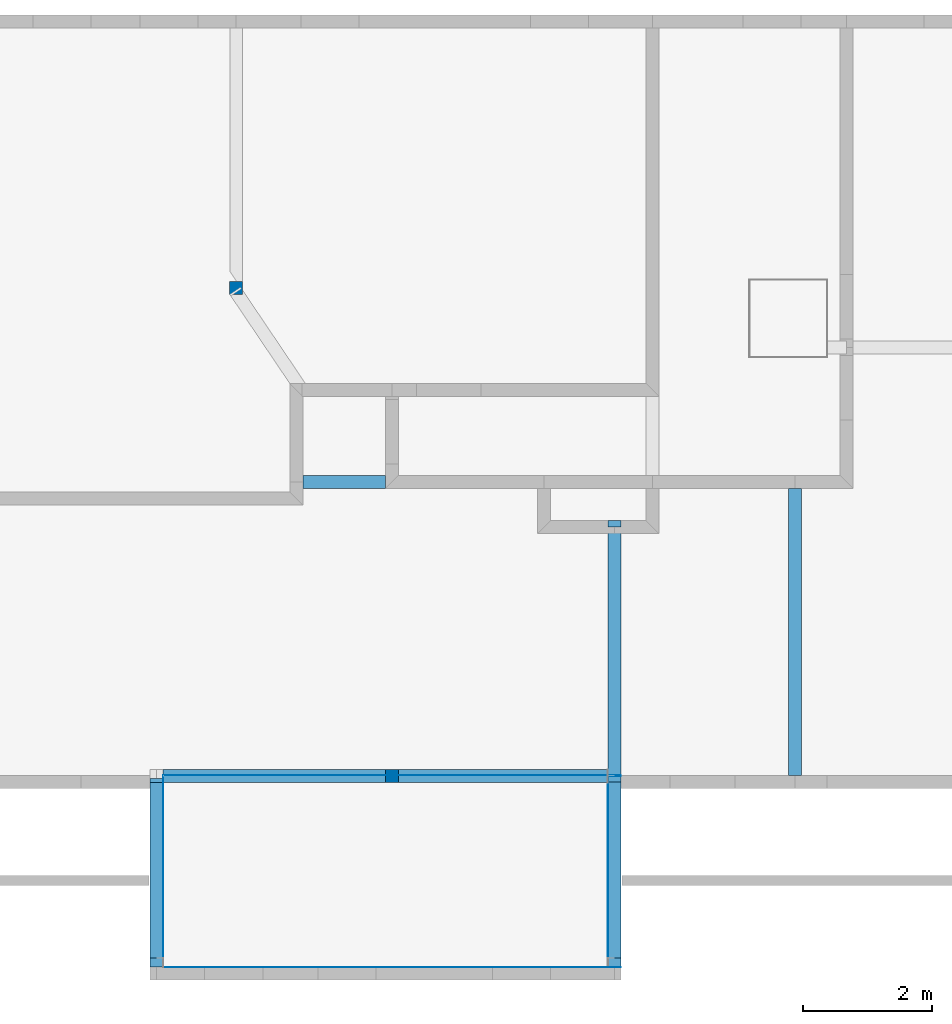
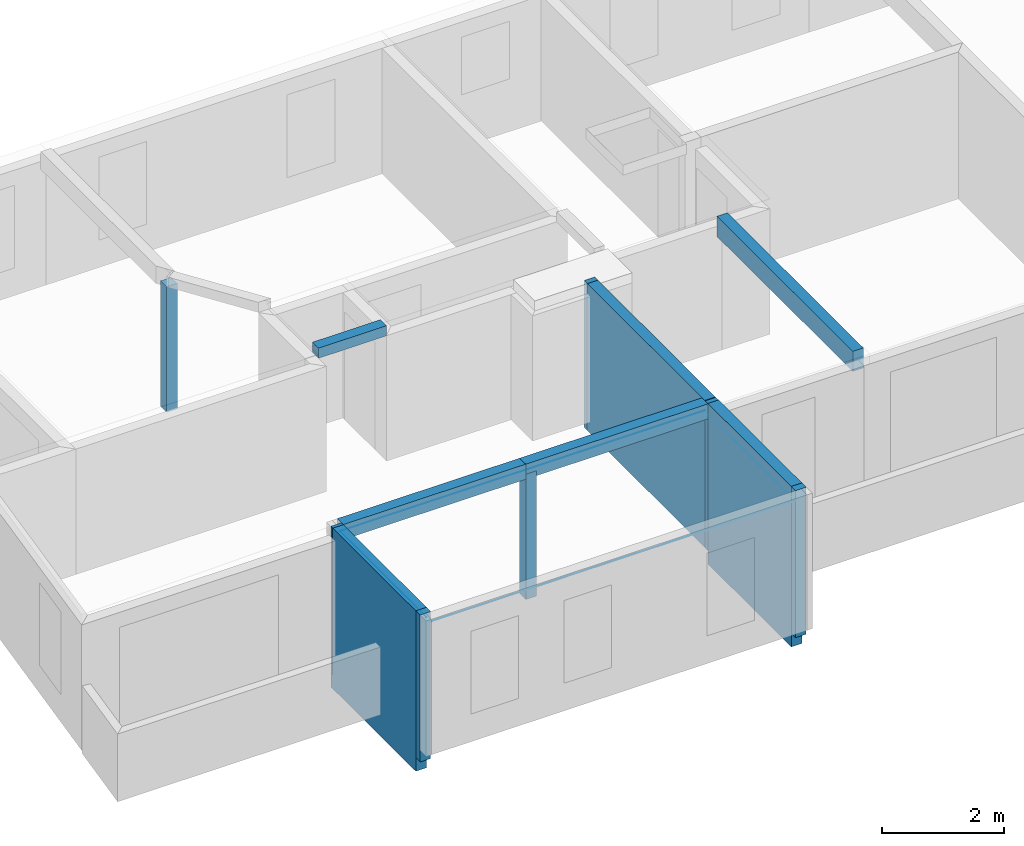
# One storey, part 1 of 11: 18 beams, 2 columns.
"""IFC2X3 building model written with IfcOpenShell, lengths in metres."""

from ifc_helpers import new_model, si_unit, direction, frame, origin_with_axes, origin_2d, place, context, subcontext, project, spatial, polyline, rectangle, outline, extrude, material, type_object, element, save


model = new_model("IFC2X3")

# Units and contexts
model_context = context("Model", 3, precision=0.0001, world=origin_with_axes(), true_north=direction((0.0, 1.0)))
plan_context = context("Plan", 2, precision=0.0001, world=origin_with_axes(), true_north=direction((0.0, 1.0)))
body_context = subcontext(model_context, "Body", "Model", "MODEL_VIEW")
ifc_project = project(units=[si_unit("MASSUNIT", "GRAM", prefix="KILO"), si_unit("AREAUNIT", "SQUARE_METRE"), si_unit("LENGTHUNIT", "METRE"), si_unit("VOLUMEUNIT", "CUBIC_METRE")], contexts=[plan_context, model_context])

# Site, building, storey
site_placement = place(None, origin_with_axes())
site = spatial("IfcSite", under=ifc_project, at=site_placement, Name="$", CompositionType="ELEMENT")
building_placement = place(site_placement, origin_with_axes())
building = spatial("IfcBuilding", under=site, at=building_placement, Name="Classeur ENS Ensemble", CompositionType="ELEMENT")
storey_placement = place(building_placement, frame((-3.040468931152, -16.07714394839, 6.03), z_axis=(0.0, 0.0, 1.0), x_axis=(1.0, 0.0, 0.0)))
storey = spatial("IfcBuildingStorey", under=building, at=storey_placement, Name="003 R+2", CompositionType="ELEMENT", Elevation=6.03)

# Columns
ifc_material = material(Name="Default material")
column_type = type_object("IfcColumnType", PredefinedType="COLUMN")
for number, where, z_axis, x_axis, name in (
    (1, (7.675975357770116, 11.83700060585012, 0.0), (0.0, 0.0, 1.0), (1.0, 0.0, 0.0), "Poteau BA"),
    (2, (10.08597535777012, 4.285654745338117, 0.0), (0.0, 0.0, 1.0), (1.0, 0.0, 0.0), "Poteau BA"),
):
    element("IfcColumn", number, at=place(storey_placement, frame(where, z_axis=z_axis, x_axis=x_axis)), inside=storey, type_object=column_type, material=ifc_material, Name=name, context=body_context, shape_type="SweptSolid", held_by="IfcProductRepresentation", body=[
        extrude(rectangle(XDim=0.2000000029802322, YDim=0.2000000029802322, at=origin_2d()), origin_with_axes(), (0.0, 0.0, 1.0), 2.5),
    ])

# Beams
beam_type = type_object("IfcBeamType", PredefinedType="BEAM")
beam_1_placement = place(storey_placement, frame((13.52597535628, 1.232143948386, -0.2300000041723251), z_axis=(0.0, 0.0, 1.0), x_axis=(0.0, 1.0, 0.0)))
element("IfcBeam", 3, at=beam_1_placement, inside=storey, type_object=beam_type, material=ifc_material, Name="PV BA 20 cm", context=body_context, shape_type="SweptSolid", held_by="IfcProductRepresentation", body=[
    extrude(outline(polyline([(0.1000000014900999, 0.1000000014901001), (0.1000000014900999, 0.1000000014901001), (0.1000000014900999, 0.1000000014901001), (0.09999999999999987, 0.1000000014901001), (0.09999999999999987, 0.1000000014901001), (0.09999999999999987, 0.1000000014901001), (0.09999999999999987, -0.1000000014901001), (0.09999999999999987, -0.1000000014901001), (0.09999999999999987, -0.1000000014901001), (0.1000000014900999, -0.1000000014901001), (0.1000000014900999, -0.1000000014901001), (0.1000000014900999, -0.1000000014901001), (0.1000000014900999, 0.1000000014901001)])), origin_with_axes(), (0.0, 0.0, 1.0), 2.930000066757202),
])
beam_2_placement = place(storey_placement, frame((6.44597535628, 1.232143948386, -0.2300000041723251), z_axis=(0.0, 0.0, 1.0), x_axis=(0.0, 1.0, 0.0)))
element("IfcBeam", 4, at=beam_2_placement, inside=storey, type_object=beam_type, material=ifc_material, Name="PV BA 20 cm", context=body_context, shape_type="SweptSolid", held_by="IfcProductRepresentation", body=[
    extrude(outline(polyline([(0.1000000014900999, 0.1000000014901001), (0.1000000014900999, 0.1000000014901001), (0.1000000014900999, 0.1000000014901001), (0.24, 0.1000000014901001), (0.24, 0.1000000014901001), (0.24, 0.1000000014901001), (0.24, -0.1000000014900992), (0.24, -0.1000000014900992), (0.24, -0.1000000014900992), (0.1000000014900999, -0.1000000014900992), (0.1000000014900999, -0.1000000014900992), (0.1000000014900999, -0.1000000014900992), (0.1000000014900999, 0.1000000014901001)])), origin_with_axes(), (0.0, 0.0, 1.0), 2.930000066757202),
])
beam_3_placement = place(storey_placement, frame((13.52597535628, 8.137143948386, -0.2300000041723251), z_axis=(0.0, 0.0, 1.0), x_axis=(0.0, 1.0, 0.0)))
element("IfcBeam", 5, at=beam_3_placement, inside=storey, type_object=beam_type, material=ifc_material, Name="PV BA 20 cm", context=body_context, shape_type="SweptSolid", held_by="IfcProductRepresentation", body=[
    extrude(outline(polyline([(0.0, 0.1000000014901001), (0.0, 0.1000000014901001), (0.0, 0.1000000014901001), (0.09999999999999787, 0.1000000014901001), (0.09999999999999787, 0.1000000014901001), (0.09999999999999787, 0.1000000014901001), (0.09999999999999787, -0.1000000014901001), (0.09999999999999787, -0.1000000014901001), (0.09999999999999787, -0.1000000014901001), (0.0, -0.1000000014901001), (0.0, -0.1000000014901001), (0.0, -0.1000000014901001), (0.0, 0.1000000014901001)])), origin_with_axes(), (0.0, 0.0, 1.0), 2.930000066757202),
])
beam_4_placement = place(storey_placement, frame((8.605975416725, 8.837143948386, 2.5), z_axis=(0.0, 0.0, 1.0), x_axis=(1.0, 0.0, 0.0)))
element("IfcBeam", 6, at=beam_4_placement, inside=storey, type_object=beam_type, material=ifc_material, Name="BN 20", context=body_context, shape_type="SweptSolid", held_by="IfcProductRepresentation", body=[
    extrude(outline(polyline([(0.1000000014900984, 0.1000000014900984), (0.1000000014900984, 0.1000000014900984), (0.1000000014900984, 0.1000000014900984), (1.3799999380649, 0.1000000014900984), (1.3799999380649, 0.1000000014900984), (1.3799999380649, 0.1000000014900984), (1.3799999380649, -0.1000000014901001), (1.3799999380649, -0.1000000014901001), (1.3799999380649, -0.1000000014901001), (0.1000000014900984, -0.1000000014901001), (0.1000000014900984, -0.1000000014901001), (0.1000000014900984, -0.1000000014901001), (0.1000000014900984, 0.1000000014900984)])), origin_with_axes(), (0.0, 0.0, 1.0), 0.2000000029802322),
])
beam_5_placement = place(storey_placement, frame((16.3166202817, 4.197143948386, 2.299999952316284), z_axis=(0.0, 0.0, 1.0), x_axis=(0.0, 1.0, 0.0)))
element("IfcBeam", 7, at=beam_5_placement, inside=storey, type_object=beam_type, material=ifc_material, Name="poutre BA 20 x 40", context=body_context, shape_type="SweptSolid", held_by="IfcProductRepresentation", body=[
    extrude(outline(polyline([(0.1000000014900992, 0.1000000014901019), (0.1000000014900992, 0.1000000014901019), (0.1000000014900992, 0.1000000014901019), (4.5399999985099, 0.1000000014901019), (4.5399999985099, 0.1000000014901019), (4.5399999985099, 0.1000000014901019), (4.5399999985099, -0.1000000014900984), (4.5399999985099, -0.1000000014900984), (4.5399999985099, -0.1000000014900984), (0.1000000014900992, -0.1000000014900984), (0.1000000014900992, -0.1000000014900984), (0.1000000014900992, -0.1000000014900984), (0.1000000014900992, 0.1000000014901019)])), origin_with_axes(), (0.0, 0.0, 1.0), 0.4000000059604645),
])
beam_6_placement = place(storey_placement, frame((9.985975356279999, 4.285654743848, 2.400000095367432), z_axis=(0.0, 0.0, 1.0), x_axis=(1.0, 0.0, 0.0)))
element("IfcBeam", 8, at=beam_6_placement, inside=storey, type_object=beam_type, material=ifc_material, Name="poutre BA 20 x 30", context=body_context, shape_type="SweptSolid", held_by="IfcProductRepresentation", body=[
    extrude(outline(polyline([(0.0, 0.1000000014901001), (0.0, 0.1000000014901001), (0.0, 0.1000000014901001), (3.440000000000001, 0.1000000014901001), (3.440000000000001, 0.1000000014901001), (3.440000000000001, 0.1000000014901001), (3.440000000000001, -0.1000000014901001), (3.440000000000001, -0.1000000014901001), (3.440000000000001, -0.1000000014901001), (0.0, -0.1000000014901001), (0.0, -0.1000000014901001), (0.0, -0.1000000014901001), (0.0, 0.1000000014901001)])), origin_with_axes(), (0.0, 0.0, 1.0), 0.300000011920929),
])
beam_7_placement = place(storey_placement, frame((13.52597535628, 4.285654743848, -0.2300000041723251), z_axis=(0.0, 0.0, 1.0), x_axis=(0.0, 1.0, 0.0)))
element("IfcBeam", 9, at=beam_7_placement, inside=storey, type_object=beam_type, material=ifc_material, Name="PV BA 20 cm", context=body_context, shape_type="SweptSolid", held_by="IfcProductRepresentation", body=[
    extrude(outline(polyline([(0.0, 0.1000000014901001), (0.1000000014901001, 0.1000000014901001), (0.1000000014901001, 0.1000000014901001), (0.01148920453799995, 0.1000000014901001), (0.01148920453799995, 0.1000000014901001), (0.01148920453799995, 0.1000000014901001), (0.01148920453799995, -0.1000000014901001), (0.01148920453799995, -0.1000000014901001), (0.01148920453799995, -0.1000000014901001), (0.0, -0.1000000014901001), (0.0, -0.1000000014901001), (0.0, -0.1000000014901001), (0.0, 0.1000000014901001)])), origin_with_axes(), (0.0, 0.0, 1.0), 2.930000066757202),
])
beam_8_placement = place(storey_placement, frame((13.52597535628, 4.197143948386, -0.2300000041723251), z_axis=(0.0, 0.0, 1.0), x_axis=(0.0, 1.0, 0.0)))
element("IfcBeam", 10, at=beam_8_placement, inside=storey, type_object=beam_type, material=ifc_material, Name="PV BA 20 cm", context=body_context, shape_type="SweptSolid", held_by="IfcProductRepresentation", body=[
    extrude(outline(polyline([(0.0, 0.1000000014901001), (0.0, 0.1000000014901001), (0.0, 0.1000000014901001), (-0.01148920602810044, 0.1000000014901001), (-0.01148920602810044, 0.1000000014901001), (0.08851079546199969, 0.1000000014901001), (0.08851079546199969, -0.1000000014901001), (0.08851079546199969, -0.1000000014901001), (0.08851079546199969, -0.1000000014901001), (0.0, -0.1000000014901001), (0.0, -0.1000000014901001), (0.0, -0.1000000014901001), (0.0, 0.1000000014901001)])), origin_with_axes(), (0.0, 0.0, 1.0), 2.930000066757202),
])
beam_9_placement = place(storey_placement, frame((13.52597535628, 1.472143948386, -0.5), z_axis=(0.0, 0.0, 1.0), x_axis=(0.0, 1.0, 0.0)))
element("IfcBeam", 11, at=beam_9_placement, inside=storey, type_object=beam_type, material=ifc_material, Name="PV BA 20 cm", context=body_context, shape_type="SweptSolid", held_by="IfcProductRepresentation", body=[
    extrude(outline(polyline([(0.0, 0.1000000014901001), (0.0, 0.1000000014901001), (0.0, 0.1000000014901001), (2.725000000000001, 0.1000000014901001), (2.725000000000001, 0.1000000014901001), (2.725000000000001, 0.1000000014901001), (2.725000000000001, -0.1000000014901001), (2.725000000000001, -0.1000000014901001), (2.725000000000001, -0.1000000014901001), (0.0, -0.1000000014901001), (0.0, -0.1000000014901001), (0.0, -0.1000000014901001), (0.0, 0.1000000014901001)])), origin_with_axes(), (0.0, 0.0, 1.0), 3.200000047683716),
])
beam_10_placement = place(storey_placement, frame((6.44597535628, 1.472143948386, -0.5), z_axis=(0.0, 0.0, 1.0), x_axis=(0.0, 1.0, 0.0)))
element("IfcBeam", 12, at=beam_10_placement, inside=storey, type_object=beam_type, material=ifc_material, Name="PV BA 20 cm", context=body_context, shape_type="SweptSolid", held_by="IfcProductRepresentation", body=[
    extrude(outline(polyline([(0.0, 0.1000000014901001), (0.0, 0.1000000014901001), (0.0, 0.1000000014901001), (2.774998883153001, 0.1000000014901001), (2.774998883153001, 0.1000000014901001), (2.774998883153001, 0.1000000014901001), (2.774998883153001, -0.1000000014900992), (2.774998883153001, -0.1000000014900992), (2.774998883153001, -0.1000000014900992), (0.0, -0.1000000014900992), (0.0, -0.1000000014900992), (0.0, -0.1000000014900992), (0.0, 0.1000000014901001)])), origin_with_axes(), (0.0, 0.0, 1.0), 3.200000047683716),
])
beam_11_placement = place(storey_placement, frame((6.54597535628, 4.285654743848, 2.400000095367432), z_axis=(0.0, 0.0, 1.0), x_axis=(0.9999999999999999, 0.0, 0.0)))
element("IfcBeam", 13, at=beam_11_placement, inside=storey, type_object=beam_type, material=ifc_material, Name="poutre BA 20 x 30", context=body_context, shape_type="SweptSolid", held_by="IfcProductRepresentation", body=[
    extrude(outline(polyline([(0.0, 0.1000000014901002), (0.0, 0.1000000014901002), (0.0, 0.1000000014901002), (3.44, 0.1000000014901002), (3.44, 0.1000000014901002), (3.44, 0.1000000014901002), (3.44, -0.1000000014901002), (3.44, -0.1000000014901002), (3.44, -0.1000000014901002), (0.0, -0.1000000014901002), (0.0, -0.1000000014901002), (0.0, -0.1000000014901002), (0.0, 0.1000000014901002)])), origin_with_axes(), (0.0, 0.0, 1.0), 0.300000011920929),
])
beam_12_placement = place(storey_placement, frame((6.54597535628, 1.472143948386, 2.5), z_axis=(0.0, 0.0, 1.0), x_axis=(0.0, 1.0, 0.0)))
element("IfcBeam", 14, at=beam_12_placement, inside=storey, type_object=beam_type, material=ifc_material, Name="poutre fictive 250", context=body_context, shape_type="SweptSolid", held_by="IfcProductRepresentation", body=[
    extrude(outline(polyline([(0.0, 0.001000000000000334), (0.0, 0.001000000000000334), (0.0, 0.001000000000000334), (2.813510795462, 0.001000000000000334), (2.813510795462, 0.001000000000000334), (2.813510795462, 0.001000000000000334), (2.813510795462, -0.001000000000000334), (2.813510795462, -0.001000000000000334), (2.813510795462, -0.001000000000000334), (0.0, -0.001000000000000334), (0.0, -0.001000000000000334), (0.0, -0.001000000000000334), (0.0, 0.001000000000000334)])), origin_with_axes(), (0.0, 0.0, 1.0), 0.001),
])
beam_13_placement = place(storey_placement, frame((6.54597535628, 4.297143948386, 2.5), z_axis=(0.0, 0.0, 1.0), x_axis=(1.0, 0.0, 0.0)))
element("IfcBeam", 15, at=beam_13_placement, inside=storey, type_object=beam_type, material=ifc_material, Name="poutre fictive 250", context=body_context, shape_type="SweptSolid", held_by="IfcProductRepresentation", body=[
    extrude(outline(polyline([(0.0, 0.001000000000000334), (0.0, 0.001000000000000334), (0.0, 0.001000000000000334), (6.880000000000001, 0.001000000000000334), (6.880000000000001, 0.001000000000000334), (6.880000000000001, 0.001000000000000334), (6.880000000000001, -0.0009999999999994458), (6.880000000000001, -0.0009999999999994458), (6.880000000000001, -0.0009999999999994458), (0.0, -0.0009999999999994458), (0.0, -0.0009999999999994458), (0.0, -0.0009999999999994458), (0.0, 0.001000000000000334)])), origin_with_axes(), (0.0, 0.0, 1.0), 0.001),
])
beam_14_placement = place(storey_placement, frame((13.52597535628, 4.297143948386, -0.2300000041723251), z_axis=(0.0, 0.0, 1.0), x_axis=(0.0, 1.0, 0.0)))
element("IfcBeam", 16, at=beam_14_placement, inside=storey, type_object=beam_type, material=ifc_material, Name="PV BA 20 cm", context=body_context, shape_type="SweptSolid", held_by="IfcProductRepresentation", body=[
    extrude(outline(polyline([(0.0, 0.1000000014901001), (0.0, 0.1000000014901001), (0.0, 0.1000000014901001), (3.840000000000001, 0.1000000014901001), (3.840000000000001, 0.1000000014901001), (3.840000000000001, 0.1000000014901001), (3.840000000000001, -0.1000000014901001), (3.840000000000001, -0.1000000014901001), (3.840000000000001, -0.1000000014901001), (0.0, -0.1000000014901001), (0.0, -0.1000000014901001), (0.0, -0.1000000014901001), (0.0, 0.1000000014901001)])), origin_with_axes(), (0.0, 0.0, 1.0), 2.930000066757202),
])
beam_15_placement = place(storey_placement, frame((6.44597535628, 4.247142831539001, -0.2300000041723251), z_axis=(0.0, 0.0, 1.0), x_axis=(0.0, 1.0, 0.0)))
element("IfcBeam", 17, at=beam_15_placement, inside=storey, type_object=beam_type, material=ifc_material, Name="PV BA 20 cm", context=body_context, shape_type="SweptSolid", held_by="IfcProductRepresentation", body=[
    extrude(outline(polyline([(0.0, 0.1000000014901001), (0.0, 0.1000000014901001), (0.0, 0.1000000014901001), (-0.06148808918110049, 0.1000000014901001), (-0.06148808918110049, 0.1000000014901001), (-0.06148808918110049, 0.1000000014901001), (-0.06148808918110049, -0.1000000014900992), (-0.06148808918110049, -0.1000000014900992), (-0.06148808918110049, -0.1000000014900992), (0.0, -0.1000000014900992), (0.0, -0.1000000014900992), (0.0, -0.1000000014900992), (0.0, 0.1000000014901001)])), origin_with_axes(), (0.0, 0.0, 1.0), 2.930000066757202),
])
beam_16_placement = place(storey_placement, frame((13.42597535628, 1.472143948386, 2.5), z_axis=(0.0, 0.0, 1.0), x_axis=(0.0, 1.0, 0.0)))
element("IfcBeam", 18, at=beam_16_placement, inside=storey, type_object=beam_type, material=ifc_material, Name="poutre fictive 250", context=body_context, shape_type="SweptSolid", held_by="IfcProductRepresentation", body=[
    extrude(outline(polyline([(0.0, 0.001000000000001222), (0.0, 0.001000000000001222), (0.0, 0.001000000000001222), (2.813510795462, 0.001000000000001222), (2.813510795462, 0.001000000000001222), (2.813510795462, 0.001000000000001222), (2.813510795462, -0.0009999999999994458), (2.813510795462, -0.0009999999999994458), (2.813510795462, -0.0009999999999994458), (0.0, -0.0009999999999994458), (0.0, -0.0009999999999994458), (0.0, -0.0009999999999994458), (0.0, 0.001000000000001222)])), origin_with_axes(), (0.0, 0.0, 1.0), 0.001),
])
beam_17_placement = place(storey_placement, frame((6.54597535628, 1.332143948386, 2.5), z_axis=(0.0, 0.0, 1.0), x_axis=(1.0, 0.0, 0.0)))
element("IfcBeam", 19, at=beam_17_placement, inside=storey, type_object=beam_type, material=ifc_material, Name="poutre fictive 250", context=body_context, shape_type="SweptSolid", held_by="IfcProductRepresentation", body=[
    extrude(outline(polyline([(0.0, 0.001000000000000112), (0.0, 0.001000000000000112), (0.0, 0.001000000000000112), (6.880000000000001, 0.001000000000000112), (6.880000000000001, 0.001000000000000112), (6.880000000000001, 0.001000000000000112), (6.880000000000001, -0.0009999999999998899), (6.880000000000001, -0.0009999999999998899), (6.880000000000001, -0.0009999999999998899), (0.0, -0.0009999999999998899), (0.0, -0.0009999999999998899), (0.0, -0.0009999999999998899), (0.0, 0.001000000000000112)])), origin_with_axes(), (0.0, 0.0, 1.0), 0.001),
])
beam_18_placement = place(storey_placement, frame((13.52597535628, 1.332143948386, -0.2300000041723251), z_axis=(0.0, 0.0, 1.0), x_axis=(0.0, 1.0, 0.0)))
element("IfcBeam", 20, at=beam_18_placement, inside=storey, type_object=beam_type, material=ifc_material, Name="PV BA 20 cm", context=body_context, shape_type="SweptSolid", held_by="IfcProductRepresentation", body=[
    extrude(outline(polyline([(0.0, 0.1000000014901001), (0.0, 0.1000000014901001), (0.0, 0.1000000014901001), (0.1400000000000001, 0.1000000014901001), (0.1400000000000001, 0.1000000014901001), (0.1400000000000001, 0.1000000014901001), (0.1400000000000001, -0.1000000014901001), (0.1400000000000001, -0.1000000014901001), (0.1400000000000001, -0.1000000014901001), (0.0, -0.1000000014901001), (0.0, -0.1000000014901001), (0.0, -0.1000000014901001), (0.0, 0.1000000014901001)])), origin_with_axes(), (0.0, 0.0, 1.0), 2.930000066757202),
])

save(model, "model.ifc")
